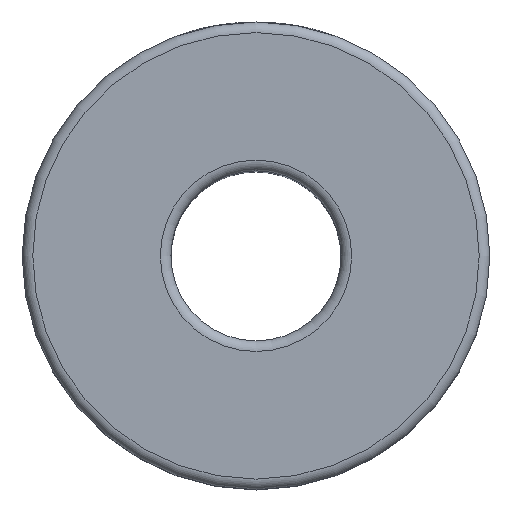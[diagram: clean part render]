
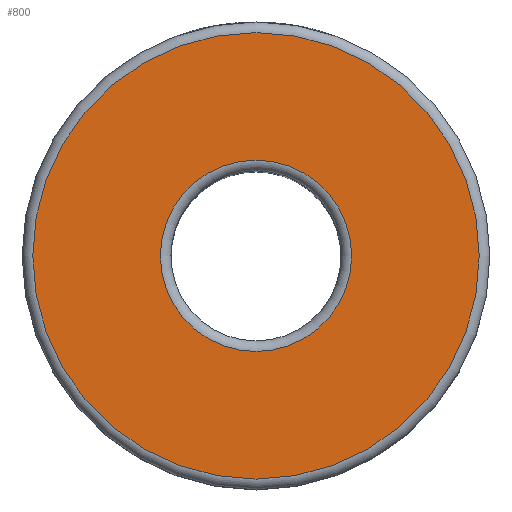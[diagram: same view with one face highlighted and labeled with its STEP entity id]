
A CAD part, top view. The second image highlights one B-rep face of the part: STEP entity #800.
In plain terms, the highlighted planar face has unit normal (0, 0, 1).
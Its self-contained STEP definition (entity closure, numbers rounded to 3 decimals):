
#23=FACE_BOUND('',#204,.T.);
#32=PLANE('',#881);
#66=CIRCLE('',#877,4.5);
#70=CIRCLE('',#882,10.5);
#155=FACE_OUTER_BOUND('',#203,.T.);
#203=EDGE_LOOP('',(#607));
#204=EDGE_LOOP('',(#608));
#395=VERTEX_POINT('',#1366);
#398=VERTEX_POINT('',#1374);
#476=EDGE_CURVE('',#395,#395,#66,.T.);
#480=EDGE_CURVE('',#398,#398,#70,.T.);
#607=ORIENTED_EDGE('',*,*,#480,.F.);
#608=ORIENTED_EDGE('',*,*,#476,.F.);
#800=ADVANCED_FACE('',(#155,#23),#32,.T.);
#877=AXIS2_PLACEMENT_3D('',#1367,#989,#990);
#881=AXIS2_PLACEMENT_3D('',#1373,#997,#998);
#882=AXIS2_PLACEMENT_3D('',#1375,#999,#1000);
#989=DIRECTION('center_axis',(0.,0.,1.));
#990=DIRECTION('ref_axis',(0.,1.,0.));
#997=DIRECTION('center_axis',(0.,0.,1.));
#998=DIRECTION('ref_axis',(1.,0.,0.));
#999=DIRECTION('center_axis',(0.,0.,-1.));
#1000=DIRECTION('ref_axis',(0.,1.,0.));
#1366=CARTESIAN_POINT('',(4.5,0.,0.));
#1367=CARTESIAN_POINT('Origin',(0.,0.,0.));
#1373=CARTESIAN_POINT('Origin',(0.,-11.,0.));
#1374=CARTESIAN_POINT('',(10.5,0.,0.));
#1375=CARTESIAN_POINT('Origin',(0.,0.,0.));
